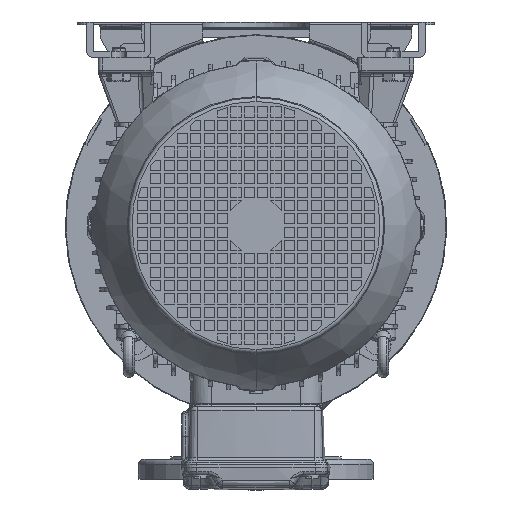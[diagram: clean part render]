
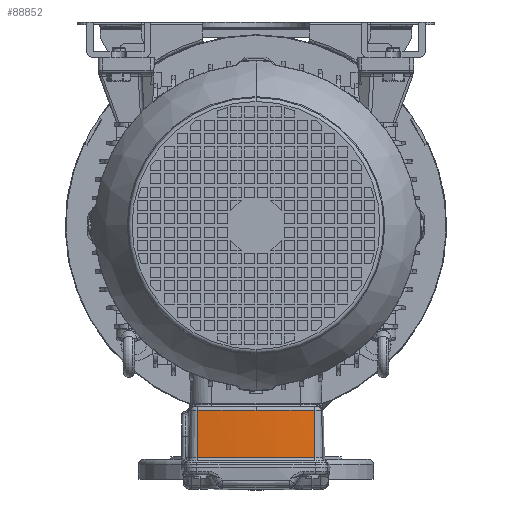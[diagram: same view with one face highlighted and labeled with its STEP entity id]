
A CAD part, front view. The second image highlights one B-rep face of the part: STEP entity #88852.
In plain terms, the highlighted conical face has half-angle 1 degrees and reference radius 447 mm.
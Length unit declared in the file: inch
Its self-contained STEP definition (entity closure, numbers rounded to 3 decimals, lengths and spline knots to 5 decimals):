
#16861 = LINE ( 'NONE', #99568, #29955 ) ;
#19678 = DIRECTION ( 'NONE',  ( -0.002, 1., -0.017 ) ) ;
#20428 = AXIS2_PLACEMENT_3D ( 'NONE', #115873, #80964, #83214 ) ;
#22929 = AXIS2_PLACEMENT_3D ( 'NONE', #75771, #76526, #144102 ) ;
#29955 = VECTOR ( 'NONE', #144328, 39.37008 ) ;
#31076 = LINE ( 'NONE', #135006, #66913 ) ;
#32664 = CIRCLE ( 'NONE', #22929, 17.56781 ) ;
#35764 = VERTEX_POINT ( 'NONE', #132772 ) ;
#36915 = DIRECTION ( 'NONE',  ( 0., 1., 0. ) ) ;
#37150 = EDGE_CURVE ( 'NONE', #71988, #35764, #31076, .T. ) ;
#38428 = DIRECTION ( 'NONE',  ( 0., 0., 1. ) ) ;
#39295 = AXIS2_PLACEMENT_3D ( 'NONE', #70456, #80315, #71191 ) ;
#43792 = CARTESIAN_POINT ( 'NONE',  ( 0., 7.48031, 17.48031 ) ) ;
#61206 = CARTESIAN_POINT ( 'NONE',  ( 0., 5.72629, -0.08749 ) ) ;
#64806 = VERTEX_POINT ( 'NONE', #61206 ) ;
#66913 = VECTOR ( 'NONE', #19678, 39.37008 ) ;
#67672 = VERTEX_POINT ( 'NONE', #144937 ) ;
#70456 = CARTESIAN_POINT ( 'NONE',  ( 0., 5.72629, 17.48031 ) ) ;
#71191 = DIRECTION ( 'NONE',  ( 0., 0., -1. ) ) ;
#71763 = AXIS2_PLACEMENT_3D ( 'NONE', #43792, #36915, #38428 ) ;
#71988 = VERTEX_POINT ( 'NONE', #135554 ) ;
#75771 = CARTESIAN_POINT ( 'NONE',  ( 0., 5.72629, 17.48031 ) ) ;
#76499 = ORIENTED_EDGE ( 'NONE', *, *, #96815, .T. ) ;
#76526 = DIRECTION ( 'NONE',  ( 0., 1., 0. ) ) ;
#80315 = DIRECTION ( 'NONE',  ( 0., 1., 0. ) ) ;
#80964 = DIRECTION ( 'NONE',  ( 0., -1., 0. ) ) ;
#83214 = DIRECTION ( 'NONE',  ( 0., 0., 1. ) ) ;
#83893 = CONICAL_SURFACE ( 'NONE', #71763, 17.59843, 0.017 ) ;
#88852 = ADVANCED_FACE ( 'NONE', ( #147743 ), #83893, .T. ) ;
#96081 = ORIENTED_EDGE ( 'NONE', *, *, #129959, .F. ) ;
#96815 = EDGE_CURVE ( 'NONE', #64806, #71988, #145861, .T. ) ;
#98587 = ORIENTED_EDGE ( 'NONE', *, *, #37150, .T. ) ;
#99568 = CARTESIAN_POINT ( 'NONE',  ( 1.81907, 7.48031, -0.02384 ) ) ;
#107150 = ORIENTED_EDGE ( 'NONE', *, *, #131060, .T. ) ;
#115873 = CARTESIAN_POINT ( 'NONE',  ( 0., 7.18629, 17.48031 ) ) ;
#118621 = EDGE_CURVE ( 'NONE', #35764, #145358, #131918, .T. ) ;
#119037 = EDGE_LOOP ( 'NONE', ( #98587, #127220, #96081, #107150, #76499 ) ) ;
#119919 = CARTESIAN_POINT ( 'NONE',  ( 1.81854, 7.18629, -0.01874 ) ) ;
#127220 = ORIENTED_EDGE ( 'NONE', *, *, #118621, .T. ) ;
#129959 = EDGE_CURVE ( 'NONE', #67672, #145358, #16861, .T. ) ;
#131060 = EDGE_CURVE ( 'NONE', #67672, #64806, #32664, .T. ) ;
#131918 = CIRCLE ( 'NONE', #20428, 17.59329 ) ;
#132772 = CARTESIAN_POINT ( 'NONE',  ( -1.81854, 7.18629, -0.01874 ) ) ;
#135006 = CARTESIAN_POINT ( 'NONE',  ( -1.81907, 7.48031, -0.02384 ) ) ;
#135554 = CARTESIAN_POINT ( 'NONE',  ( -1.81591, 5.72629, 0.00661 ) ) ;
#144102 = DIRECTION ( 'NONE',  ( 0., 0., -1. ) ) ;
#144328 = DIRECTION ( 'NONE',  ( 0.002, 1., -0.017 ) ) ;
#144937 = CARTESIAN_POINT ( 'NONE',  ( 1.81591, 5.72629, 0.00661 ) ) ;
#145358 = VERTEX_POINT ( 'NONE', #119919 ) ;
#145861 = CIRCLE ( 'NONE', #39295, 17.56781 ) ;
#147743 = FACE_OUTER_BOUND ( 'NONE', #119037, .T. ) ;
